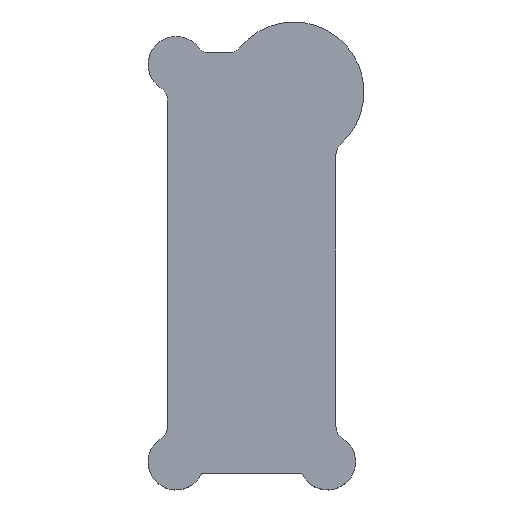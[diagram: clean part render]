
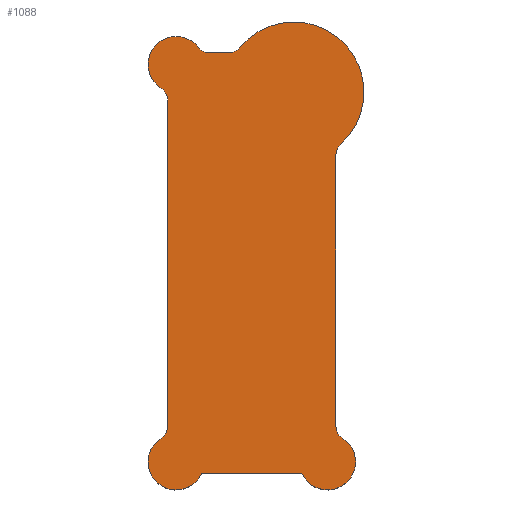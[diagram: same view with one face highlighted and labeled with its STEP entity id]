
A CAD part, top view. The second image highlights one B-rep face of the part: STEP entity #1088.
In plain terms, the highlighted planar face has unit normal (0, 0, 1).
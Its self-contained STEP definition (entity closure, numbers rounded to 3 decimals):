
#89=PLANE('',#1211);
#147=FACE_OUTER_BOUND('',#212,.T.);
#212=EDGE_LOOP('',(#996,#997,#998,#999,#1000,#1001,#1002,#1003,#1004,#1005,
#1006,#1007,#1008,#1009));
#300=LINE('',#1828,#406);
#316=LINE('',#1859,#422);
#317=LINE('',#1861,#423);
#318=LINE('',#1863,#424);
#406=VECTOR('',#1480,10.);
#422=VECTOR('',#1524,10.);
#423=VECTOR('',#1527,10.);
#424=VECTOR('',#1530,10.);
#442=CIRCLE('',#1152,5.);
#444=CIRCLE('',#1155,25.);
#446=CIRCLE('',#1158,5.);
#448=CIRCLE('',#1161,10.);
#449=CIRCLE('',#1163,5.);
#451=CIRCLE('',#1166,5.);
#454=CIRCLE('',#1170,5.);
#456=CIRCLE('',#1173,10.);
#457=CIRCLE('',#1175,5.);
#459=CIRCLE('',#1178,10.);
#522=VERTEX_POINT('',#1709);
#523=VERTEX_POINT('',#1711);
#525=VERTEX_POINT('',#1717);
#528=VERTEX_POINT('',#1724);
#529=VERTEX_POINT('',#1726);
#531=VERTEX_POINT('',#1732);
#532=VERTEX_POINT('',#1736);
#534=VERTEX_POINT('',#1742);
#538=VERTEX_POINT('',#1751);
#539=VERTEX_POINT('',#1753);
#543=VERTEX_POINT('',#1764);
#544=VERTEX_POINT('',#1768);
#545=VERTEX_POINT('',#1769);
#548=VERTEX_POINT('',#1777);
#638=EDGE_CURVE('',#522,#523,#442,.T.);
#642=EDGE_CURVE('',#525,#522,#444,.T.);
#645=EDGE_CURVE('',#528,#529,#446,.T.);
#649=EDGE_CURVE('',#531,#528,#448,.T.);
#650=EDGE_CURVE('',#532,#525,#449,.T.);
#653=EDGE_CURVE('',#534,#531,#451,.T.);
#658=EDGE_CURVE('',#538,#539,#454,.T.);
#665=EDGE_CURVE('',#543,#538,#456,.T.);
#666=EDGE_CURVE('',#544,#545,#457,.T.);
#670=EDGE_CURVE('',#545,#548,#459,.T.);
#695=EDGE_CURVE('',#534,#539,#300,.T.);
#711=EDGE_CURVE('',#532,#529,#316,.T.);
#712=EDGE_CURVE('',#544,#523,#317,.T.);
#713=EDGE_CURVE('',#543,#548,#318,.T.);
#996=ORIENTED_EDGE('',*,*,#695,.T.);
#997=ORIENTED_EDGE('',*,*,#658,.F.);
#998=ORIENTED_EDGE('',*,*,#665,.F.);
#999=ORIENTED_EDGE('',*,*,#713,.T.);
#1000=ORIENTED_EDGE('',*,*,#670,.F.);
#1001=ORIENTED_EDGE('',*,*,#666,.F.);
#1002=ORIENTED_EDGE('',*,*,#712,.T.);
#1003=ORIENTED_EDGE('',*,*,#638,.F.);
#1004=ORIENTED_EDGE('',*,*,#642,.F.);
#1005=ORIENTED_EDGE('',*,*,#650,.F.);
#1006=ORIENTED_EDGE('',*,*,#711,.T.);
#1007=ORIENTED_EDGE('',*,*,#645,.F.);
#1008=ORIENTED_EDGE('',*,*,#649,.F.);
#1009=ORIENTED_EDGE('',*,*,#653,.F.);
#1088=ADVANCED_FACE('',(#147),#89,.T.);
#1152=AXIS2_PLACEMENT_3D('',#1712,#1362,#1363);
#1155=AXIS2_PLACEMENT_3D('',#1719,#1370,#1371);
#1158=AXIS2_PLACEMENT_3D('',#1727,#1377,#1378);
#1161=AXIS2_PLACEMENT_3D('',#1734,#1385,#1386);
#1163=AXIS2_PLACEMENT_3D('',#1737,#1389,#1390);
#1166=AXIS2_PLACEMENT_3D('',#1743,#1396,#1397);
#1170=AXIS2_PLACEMENT_3D('',#1754,#1406,#1407);
#1173=AXIS2_PLACEMENT_3D('',#1766,#1417,#1418);
#1175=AXIS2_PLACEMENT_3D('',#1770,#1421,#1422);
#1178=AXIS2_PLACEMENT_3D('',#1778,#1429,#1430);
#1211=AXIS2_PLACEMENT_3D('',#1864,#1531,#1532);
#1362=DIRECTION('center_axis',(0.,0.,1.));
#1363=DIRECTION('ref_axis',(-0.913,0.408,0.));
#1370=DIRECTION('center_axis',(0.,0.,-1.));
#1371=DIRECTION('ref_axis',(-1.,0.,0.));
#1377=DIRECTION('center_axis',(0.,0.,1.));
#1378=DIRECTION('ref_axis',(-0.442,-0.897,0.));
#1385=DIRECTION('center_axis',(0.,0.,-1.));
#1386=DIRECTION('ref_axis',(-1.,0.,0.));
#1389=DIRECTION('center_axis',(0.,0.,1.));
#1390=DIRECTION('ref_axis',(0.428,-0.904,0.));
#1396=DIRECTION('center_axis',(0.,0.,1.));
#1397=DIRECTION('ref_axis',(0.876,0.483,0.));
#1406=DIRECTION('center_axis',(0.,0.,1.));
#1407=DIRECTION('ref_axis',(0.876,-0.483,0.));
#1417=DIRECTION('center_axis',(0.,0.,-1.));
#1418=DIRECTION('ref_axis',(-1.,0.,0.));
#1421=DIRECTION('center_axis',(0.,0.,1.));
#1422=DIRECTION('ref_axis',(-0.876,-0.483,0.));
#1429=DIRECTION('center_axis',(0.,0.,-1.));
#1430=DIRECTION('ref_axis',(-1.,0.,0.));
#1480=DIRECTION('',(0.,-1.,0.));
#1524=DIRECTION('',(-1.,0.,0.));
#1527=DIRECTION('',(0.,1.,0.));
#1530=DIRECTION('',(1.,0.,0.));
#1531=DIRECTION('center_axis',(0.,0.,1.));
#1532=DIRECTION('ref_axis',(1.,0.,0.));
#1709=CARTESIAN_POINT('',(49.167,9.866,2.));
#1711=CARTESIAN_POINT('',(47.5,6.139,2.));
#1712=CARTESIAN_POINT('Origin',(52.5,6.139,2.));
#1717=CARTESIAN_POINT('',(13.153,44.333,2.));
#1719=CARTESIAN_POINT('Origin',(32.5,28.5,2.));
#1724=CARTESIAN_POINT('',(-1.57,44.454,2.));
#1726=CARTESIAN_POINT('',(2.396,42.5,2.));
#1727=CARTESIAN_POINT('Origin',(2.396,47.5,2.));
#1732=CARTESIAN_POINT('',(-14.833,29.903,2.));
#1734=CARTESIAN_POINT('Origin',(-9.5,38.362,2.));
#1736=CARTESIAN_POINT('',(9.284,42.5,2.));
#1737=CARTESIAN_POINT('Origin',(9.284,47.5,2.));
#1742=CARTESIAN_POINT('',(-12.5,25.674,2.));
#1743=CARTESIAN_POINT('Origin',(-17.5,25.674,2.));
#1751=CARTESIAN_POINT('',(-14.833,-94.903,2.));
#1753=CARTESIAN_POINT('',(-12.5,-90.674,2.));
#1754=CARTESIAN_POINT('Origin',(-17.5,-90.674,2.));
#1764=CARTESIAN_POINT('',(-0.396,-107.5,2.));
#1766=CARTESIAN_POINT('Origin',(-9.5,-103.362,2.));
#1768=CARTESIAN_POINT('',(47.5,-90.674,2.));
#1769=CARTESIAN_POINT('',(49.833,-94.903,2.));
#1770=CARTESIAN_POINT('Origin',(52.5,-90.674,2.));
#1777=CARTESIAN_POINT('',(35.396,-107.5,2.));
#1778=CARTESIAN_POINT('Origin',(44.5,-103.362,2.));
#1828=CARTESIAN_POINT('',(-12.5,42.5,2.));
#1859=CARTESIAN_POINT('',(47.5,42.5,2.));
#1861=CARTESIAN_POINT('',(47.5,-107.5,2.));
#1863=CARTESIAN_POINT('',(-12.5,-107.5,2.));
#1864=CARTESIAN_POINT('Origin',(17.5,-32.5,2.));
